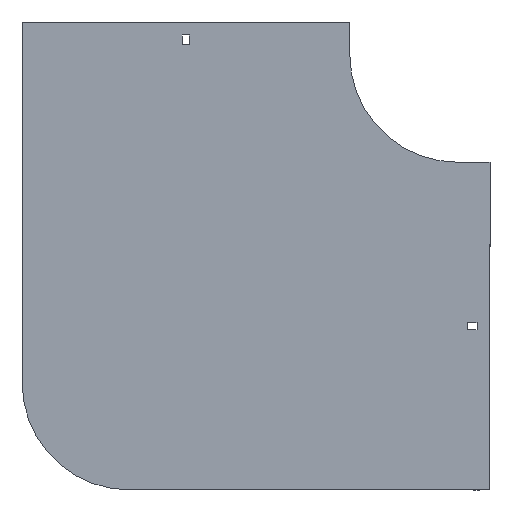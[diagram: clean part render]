
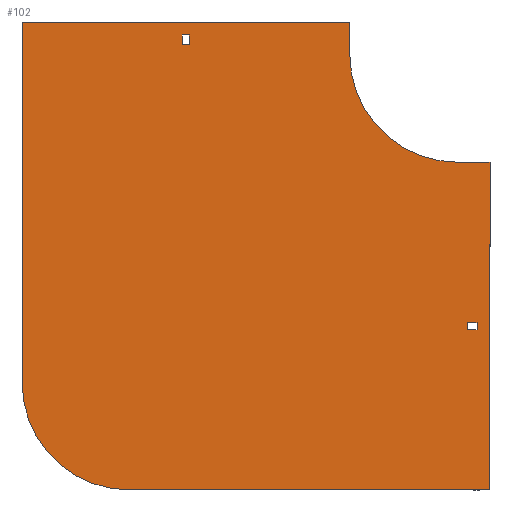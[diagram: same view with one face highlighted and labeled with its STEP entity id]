
A CAD part, front view. The second image highlights one B-rep face of the part: STEP entity #102.
In plain terms, the highlighted planar face has unit normal (0, -1, 0).
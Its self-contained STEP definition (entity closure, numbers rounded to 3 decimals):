
#9 = DIRECTION ( 'NONE',  ( -1., 0., 0. ) ) ;
#23 = CARTESIAN_POINT ( 'NONE',  ( 0., 0., -100. ) ) ;
#29 = ORIENTED_EDGE ( 'NONE', *, *, #1344, .F. ) ;
#40 = VERTEX_POINT ( 'NONE', #1091 ) ;
#50 = EDGE_CURVE ( 'NONE', #583, #642, #346, .T. ) ;
#52 = DIRECTION ( 'NONE',  ( 0., 0., -1. ) ) ;
#60 = PLANE ( 'NONE',  #1197 ) ;
#64 = CARTESIAN_POINT ( 'NONE',  ( 30., 0., -404. ) ) ;
#65 = CARTESIAN_POINT ( 'NONE',  ( 9., 0., -255.25 ) ) ;
#88 = VECTOR ( 'NONE', #9, 1000. ) ;
#90 = VECTOR ( 'NONE', #173, 1000. ) ;
#102 = ADVANCED_FACE ( 'NONE', ( #935, #1352, #174 ), #60, .T. ) ;
#108 = CARTESIAN_POINT ( 'NONE',  ( -100., 0., 30. ) ) ;
#111 = EDGE_CURVE ( 'NONE', #530, #729, #607, .T. ) ;
#120 = LINE ( 'NONE', #1194, #838 ) ;
#133 = CARTESIAN_POINT ( 'NONE',  ( -304., 0., -304. ) ) ;
#136 = CARTESIAN_POINT ( 'NONE',  ( -248.75, 0., 9. ) ) ;
#140 = CARTESIAN_POINT ( 'NONE',  ( -304., 0., -404. ) ) ;
#143 = DIRECTION ( 'NONE',  ( 0., 0., -1. ) ) ;
#173 = DIRECTION ( 'NONE',  ( 0., 0., 1. ) ) ;
#174 = FACE_BOUND ( 'NONE', #298, .T. ) ;
#180 = AXIS2_PLACEMENT_3D ( 'NONE', #711, #1143, #1013 ) ;
#193 = LINE ( 'NONE', #734, #862 ) ;
#202 = AXIS2_PLACEMENT_3D ( 'NONE', #133, #582, #995 ) ;
#206 = CARTESIAN_POINT ( 'NONE',  ( -404., 0., 30. ) ) ;
#209 = LINE ( 'NONE', #1377, #994 ) ;
#236 = DIRECTION ( 'NONE',  ( 1., 0., 0. ) ) ;
#239 = EDGE_CURVE ( 'NONE', #491, #413, #738, .T. ) ;
#245 = VERTEX_POINT ( 'NONE', #206 ) ;
#255 = VERTEX_POINT ( 'NONE', #1061 ) ;
#272 = VECTOR ( 'NONE', #236, 1000. ) ;
#280 = EDGE_CURVE ( 'NONE', #795, #255, #1074, .T. ) ;
#284 = VECTOR ( 'NONE', #326, 1000. ) ;
#291 = VERTEX_POINT ( 'NONE', #1068 ) ;
#298 = EDGE_LOOP ( 'NONE', ( #900, #29, #562, #774 ) ) ;
#322 = DIRECTION ( 'NONE',  ( 1., 0., 0. ) ) ;
#325 = VERTEX_POINT ( 'NONE', #136 ) ;
#326 = DIRECTION ( 'NONE',  ( 1., 0., 0. ) ) ;
#346 = LINE ( 'NONE', #1207, #272 ) ;
#393 = EDGE_CURVE ( 'NONE', #325, #291, #888, .T. ) ;
#400 = ORIENTED_EDGE ( 'NONE', *, *, #239, .F. ) ;
#408 = CARTESIAN_POINT ( 'NONE',  ( -255.25, 0., 9. ) ) ;
#412 = VECTOR ( 'NONE', #143, 1000. ) ;
#413 = VERTEX_POINT ( 'NONE', #1189 ) ;
#430 = DIRECTION ( 'NONE',  ( 0., 0., -1. ) ) ;
#434 = CARTESIAN_POINT ( 'NONE',  ( 9., 0., -255.25 ) ) ;
#460 = CARTESIAN_POINT ( 'NONE',  ( 30., 0., -100. ) ) ;
#491 = VERTEX_POINT ( 'NONE', #594 ) ;
#498 = DIRECTION ( 'NONE',  ( 0., 0., 1. ) ) ;
#502 = LINE ( 'NONE', #823, #522 ) ;
#504 = CIRCLE ( 'NONE', #202, 100. ) ;
#520 = CARTESIAN_POINT ( 'NONE',  ( -255.25, 0., 18. ) ) ;
#522 = VECTOR ( 'NONE', #1164, 1000. ) ;
#523 = CARTESIAN_POINT ( 'NONE',  ( 9., 0., -248.75 ) ) ;
#529 = DIRECTION ( 'NONE',  ( -1., 0., 0. ) ) ;
#530 = VERTEX_POINT ( 'NONE', #926 ) ;
#542 = EDGE_CURVE ( 'NONE', #413, #583, #611, .T. ) ;
#549 = DIRECTION ( 'NONE',  ( -1., 0., 0. ) ) ;
#562 = ORIENTED_EDGE ( 'NONE', *, *, #111, .F. ) ;
#582 = DIRECTION ( 'NONE',  ( 0., 1., 0. ) ) ;
#583 = VERTEX_POINT ( 'NONE', #23 ) ;
#594 = CARTESIAN_POINT ( 'NONE',  ( -100., 0., 30. ) ) ;
#607 = LINE ( 'NONE', #65, #767 ) ;
#611 = CIRCLE ( 'NONE', #180, 100. ) ;
#614 = VECTOR ( 'NONE', #498, 1000. ) ;
#615 = EDGE_CURVE ( 'NONE', #1172, #624, #120, .T. ) ;
#624 = VERTEX_POINT ( 'NONE', #140 ) ;
#640 = EDGE_CURVE ( 'NONE', #624, #40, #504, .T. ) ;
#642 = VERTEX_POINT ( 'NONE', #460 ) ;
#648 = LINE ( 'NONE', #1112, #412 ) ;
#664 = ORIENTED_EDGE ( 'NONE', *, *, #1168, .F. ) ;
#680 = CARTESIAN_POINT ( 'NONE',  ( -255.25, 0., 9. ) ) ;
#699 = CARTESIAN_POINT ( 'NONE',  ( -404., 0., -304. ) ) ;
#710 = VERTEX_POINT ( 'NONE', #1009 ) ;
#711 = CARTESIAN_POINT ( 'NONE',  ( 0., 0., 0. ) ) ;
#720 = EDGE_CURVE ( 'NONE', #40, #245, #829, .T. ) ;
#722 = ORIENTED_EDGE ( 'NONE', *, *, #280, .T. ) ;
#726 = DIRECTION ( 'NONE',  ( 0., 0., -1. ) ) ;
#729 = VERTEX_POINT ( 'NONE', #1031 ) ;
#734 = CARTESIAN_POINT ( 'NONE',  ( 18., 0., -255.25 ) ) ;
#738 = LINE ( 'NONE', #108, #1056 ) ;
#767 = VECTOR ( 'NONE', #921, 1000. ) ;
#774 = ORIENTED_EDGE ( 'NONE', *, *, #826, .F. ) ;
#795 = VERTEX_POINT ( 'NONE', #811 ) ;
#811 = CARTESIAN_POINT ( 'NONE',  ( -255.25, 0., 18. ) ) ;
#823 = CARTESIAN_POINT ( 'NONE',  ( -404., 0., 30. ) ) ;
#826 = EDGE_CURVE ( 'NONE', #943, #530, #1275, .T. ) ;
#829 = LINE ( 'NONE', #699, #614 ) ;
#830 = ORIENTED_EDGE ( 'NONE', *, *, #393, .T. ) ;
#838 = VECTOR ( 'NONE', #549, 1000. ) ;
#843 = EDGE_CURVE ( 'NONE', #710, #943, #193, .T. ) ;
#862 = VECTOR ( 'NONE', #1282, 1000. ) ;
#865 = EDGE_CURVE ( 'NONE', #642, #1172, #209, .T. ) ;
#876 = ORIENTED_EDGE ( 'NONE', *, *, #615, .F. ) ;
#882 = ORIENTED_EDGE ( 'NONE', *, *, #1230, .T. ) ;
#886 = EDGE_LOOP ( 'NONE', ( #882, #722, #1401, #830 ) ) ;
#888 = LINE ( 'NONE', #680, #88 ) ;
#900 = ORIENTED_EDGE ( 'NONE', *, *, #843, .F. ) ;
#921 = DIRECTION ( 'NONE',  ( 0., 0., -1. ) ) ;
#926 = CARTESIAN_POINT ( 'NONE',  ( 9., 0., -248.75 ) ) ;
#935 = FACE_BOUND ( 'NONE', #886, .T. ) ;
#943 = VERTEX_POINT ( 'NONE', #1396 ) ;
#971 = VECTOR ( 'NONE', #529, 1000. ) ;
#993 = ORIENTED_EDGE ( 'NONE', *, *, #50, .F. ) ;
#994 = VECTOR ( 'NONE', #430, 1000. ) ;
#995 = DIRECTION ( 'NONE',  ( 0., 0., 1. ) ) ;
#1008 = ORIENTED_EDGE ( 'NONE', *, *, #720, .F. ) ;
#1009 = CARTESIAN_POINT ( 'NONE',  ( 18., 0., -255.25 ) ) ;
#1013 = DIRECTION ( 'NONE',  ( 0., 0., -1. ) ) ;
#1031 = CARTESIAN_POINT ( 'NONE',  ( 9., 0., -255.25 ) ) ;
#1041 = EDGE_CURVE ( 'NONE', #255, #325, #648, .T. ) ;
#1048 = EDGE_LOOP ( 'NONE', ( #664, #1008, #1064, #876, #1072, #993, #1126, #400 ) ) ;
#1056 = VECTOR ( 'NONE', #726, 1000. ) ;
#1061 = CARTESIAN_POINT ( 'NONE',  ( -248.75, 0., 18. ) ) ;
#1064 = ORIENTED_EDGE ( 'NONE', *, *, #640, .F. ) ;
#1068 = CARTESIAN_POINT ( 'NONE',  ( -255.25, 0., 9. ) ) ;
#1072 = ORIENTED_EDGE ( 'NONE', *, *, #865, .F. ) ;
#1074 = LINE ( 'NONE', #520, #1337 ) ;
#1091 = CARTESIAN_POINT ( 'NONE',  ( -404., 0., -304. ) ) ;
#1112 = CARTESIAN_POINT ( 'NONE',  ( -248.75, 0., 9. ) ) ;
#1126 = ORIENTED_EDGE ( 'NONE', *, *, #542, .F. ) ;
#1140 = DIRECTION ( 'NONE',  ( 0., -1., 0. ) ) ;
#1143 = DIRECTION ( 'NONE',  ( 0., -1., 0. ) ) ;
#1164 = DIRECTION ( 'NONE',  ( 1., 0., 0. ) ) ;
#1168 = EDGE_CURVE ( 'NONE', #245, #491, #502, .T. ) ;
#1172 = VERTEX_POINT ( 'NONE', #64 ) ;
#1189 = CARTESIAN_POINT ( 'NONE',  ( -100., 0., 0. ) ) ;
#1194 = CARTESIAN_POINT ( 'NONE',  ( 30., 0., -404. ) ) ;
#1197 = AXIS2_PLACEMENT_3D ( 'NONE', #1256, #1140, #52 ) ;
#1207 = CARTESIAN_POINT ( 'NONE',  ( 0., 0., -100. ) ) ;
#1230 = EDGE_CURVE ( 'NONE', #291, #795, #1375, .T. ) ;
#1256 = CARTESIAN_POINT ( 'NONE',  ( 0., 0., 0. ) ) ;
#1275 = LINE ( 'NONE', #523, #971 ) ;
#1282 = DIRECTION ( 'NONE',  ( 0., 0., 1. ) ) ;
#1337 = VECTOR ( 'NONE', #322, 1000. ) ;
#1344 = EDGE_CURVE ( 'NONE', #729, #710, #1403, .T. ) ;
#1352 = FACE_OUTER_BOUND ( 'NONE', #1048, .T. ) ;
#1375 = LINE ( 'NONE', #408, #90 ) ;
#1377 = CARTESIAN_POINT ( 'NONE',  ( 30., 0., -100. ) ) ;
#1396 = CARTESIAN_POINT ( 'NONE',  ( 18., 0., -248.75 ) ) ;
#1401 = ORIENTED_EDGE ( 'NONE', *, *, #1041, .T. ) ;
#1403 = LINE ( 'NONE', #434, #284 ) ;
